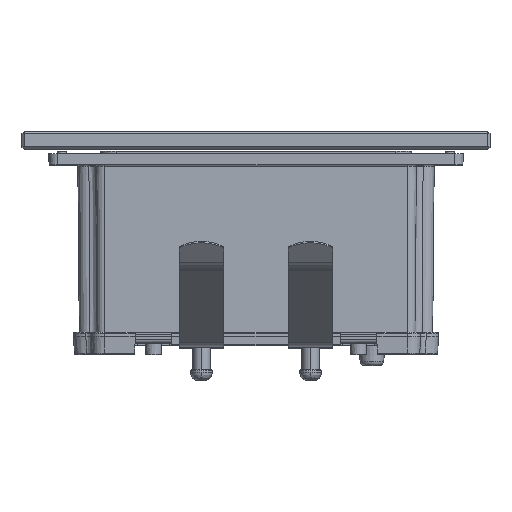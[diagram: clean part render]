
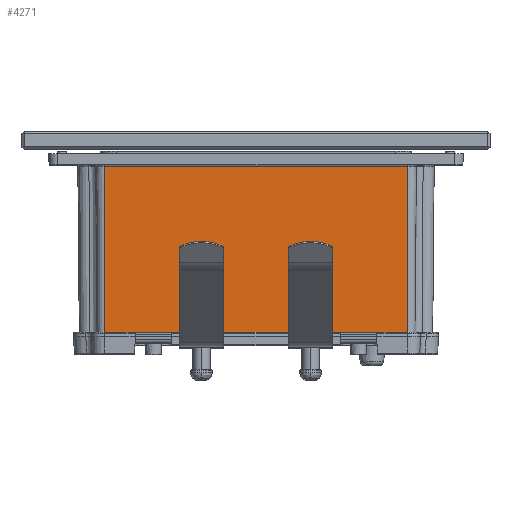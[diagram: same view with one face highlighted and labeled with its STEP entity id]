
A CAD part, top view. The second image highlights one B-rep face of the part: STEP entity #4271.
In plain terms, the highlighted planar face has unit normal (0, -0.009, 1).
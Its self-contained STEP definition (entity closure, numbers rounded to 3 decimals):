
#75=DIRECTION('',(1.,0.,0.));
#76=VECTOR('',#75,68.);
#77=CARTESIAN_POINT('',(-34.,-27.5,24.147));
#78=LINE('',#77,#76);
#1776=DIRECTION('',(1.,0.,0.));
#1777=VECTOR('',#1776,68.);
#1778=CARTESIAN_POINT('',(-34.,10.203,24.476));
#1779=LINE('',#1778,#1777);
#1780=DIRECTION('',(0.,-1.,-0.009));
#1781=VECTOR('',#1780,37.704);
#1782=CARTESIAN_POINT('',(34.,10.203,24.476));
#1783=LINE('',#1782,#1781);
#1784=DIRECTION('',(0.,-1.,-0.009));
#1785=VECTOR('',#1784,37.704);
#1786=CARTESIAN_POINT('',(-34.,10.203,24.476));
#1787=LINE('',#1786,#1785);
#2013=CARTESIAN_POINT('',(-34.,-27.5,24.147));
#2015=VERTEX_POINT('',#2013);
#2018=CARTESIAN_POINT('',(34.,-27.5,24.147));
#2020=VERTEX_POINT('',#2018);
#2229=CARTESIAN_POINT('',(34.,10.203,24.476));
#2231=VERTEX_POINT('',#2229);
#2305=CARTESIAN_POINT('',(-34.,10.203,24.476));
#2306=VERTEX_POINT('',#2305);
#4258=CARTESIAN_POINT('',(-37.12,13.,24.5));
#4259=DIRECTION('',(0.,-0.009,1.));
#4260=DIRECTION('',(1.,0.,0.));
#4261=AXIS2_PLACEMENT_3D('',#4258,#4259,#4260);
#4262=PLANE('',#4261);
#4264=ORIENTED_EDGE('',*,*,#4263,.T.);
#4265=ORIENTED_EDGE('',*,*,#3922,.T.);
#4266=ORIENTED_EDGE('',*,*,#2430,.F.);
#4268=ORIENTED_EDGE('',*,*,#4267,.F.);
#4269=EDGE_LOOP('',(#4264,#4265,#4266,#4268));
#4270=FACE_OUTER_BOUND('',#4269,.F.);
#4271=ADVANCED_FACE('',(#4270),#4262,.T.);
#2430=EDGE_CURVE('',#2015,#2020,#78,.T.);
#3922=EDGE_CURVE('',#2231,#2020,#1783,.T.);
#4263=EDGE_CURVE('',#2306,#2231,#1779,.T.);
#4267=EDGE_CURVE('',#2306,#2015,#1787,.T.);
